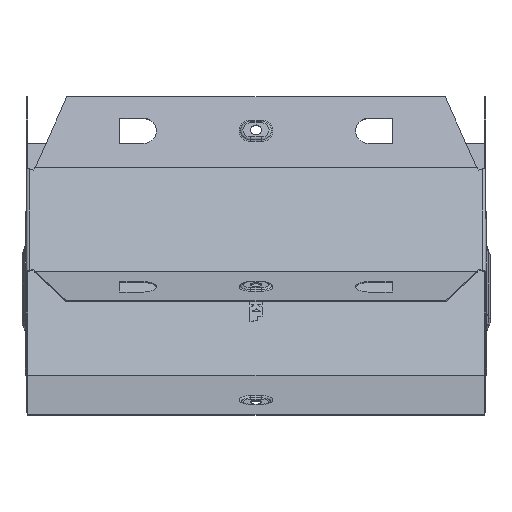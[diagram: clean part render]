
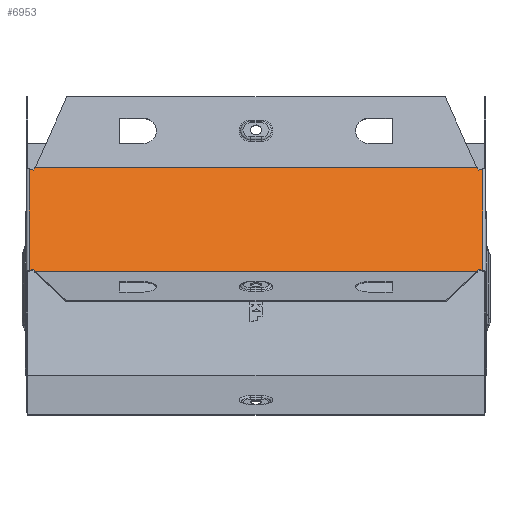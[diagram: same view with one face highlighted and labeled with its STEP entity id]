
A CAD part, front view. The second image highlights one B-rep face of the part: STEP entity #6953.
In plain terms, the highlighted planar face has unit normal (0, -0.707, 0.707).
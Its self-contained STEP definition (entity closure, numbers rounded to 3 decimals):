
#139 = EDGE_LOOP ( 'NONE', ( #4870, #882, #3861, #10073, #6157, #10503, #3283, #1329, #3732, #10153, #1946, #1222 ) ) ;
#310 = CARTESIAN_POINT ( 'NONE',  ( 150.299, 2.258, -69.859 ) ) ;
#424 = DIRECTION ( 'NONE',  ( -0.924, -0.271, -0.271 ) ) ;
#472 = VERTEX_POINT ( 'NONE', #9989 ) ;
#629 = LINE ( 'NONE', #12101, #10351 ) ;
#717 = DIRECTION ( 'NONE',  ( -1., 0., 0. ) ) ;
#882 = ORIENTED_EDGE ( 'NONE', *, *, #1439, .T. ) ;
#1222 = ORIENTED_EDGE ( 'NONE', *, *, #9135, .F. ) ;
#1329 = ORIENTED_EDGE ( 'NONE', *, *, #11295, .T. ) ;
#1374 = PLANE ( 'NONE',  #9932 ) ;
#1409 = DIRECTION ( 'NONE',  ( 0., 0.707, -0.707 ) ) ;
#1439 = EDGE_CURVE ( 'NONE', #472, #8602, #6325, .T. ) ;
#1531 = VERTEX_POINT ( 'NONE', #3880 ) ;
#1709 = VERTEX_POINT ( 'NONE', #10398 ) ;
#1808 = EDGE_CURVE ( 'NONE', #2020, #1531, #5576, .T. ) ;
#1882 = EDGE_CURVE ( 'NONE', #1531, #10614, #11457, .T. ) ;
#1946 = ORIENTED_EDGE ( 'NONE', *, *, #11430, .T. ) ;
#2020 = VERTEX_POINT ( 'NONE', #4205 ) ;
#2193 = CARTESIAN_POINT ( 'NONE',  ( -145.217, 3.747, -68.371 ) ) ;
#2197 = VECTOR ( 'NONE', #717, 1000. ) ;
#2346 = LINE ( 'NONE', #3043, #4551 ) ;
#2483 = DIRECTION ( 'NONE',  ( -0.383, -0.653, -0.653 ) ) ;
#2543 = LINE ( 'NONE', #8090, #7645 ) ;
#2608 = VECTOR ( 'NONE', #9357, 1000. ) ;
#2656 = VERTEX_POINT ( 'NONE', #9996 ) ;
#2832 = VECTOR ( 'NONE', #4254, 1000. ) ;
#3043 = CARTESIAN_POINT ( 'NONE',  ( 148.2, 70., -2.118 ) ) ;
#3193 = VECTOR ( 'NONE', #7704, 1000. ) ;
#3212 = CARTESIAN_POINT ( 'NONE',  ( 148.2, 70., -2.118 ) ) ;
#3283 = ORIENTED_EDGE ( 'NONE', *, *, #7813, .T. ) ;
#3660 = CARTESIAN_POINT ( 'NONE',  ( 123.5, -33.327, -105.445 ) ) ;
#3732 = ORIENTED_EDGE ( 'NONE', *, *, #1808, .T. ) ;
#3861 = ORIENTED_EDGE ( 'NONE', *, *, #9455, .F. ) ;
#3880 = CARTESIAN_POINT ( 'NONE',  ( -148.2, 2.873, -69.245 ) ) ;
#4050 = CARTESIAN_POINT ( 'NONE',  ( -148.2, 70., -2.118 ) ) ;
#4082 = VERTEX_POINT ( 'NONE', #6910 ) ;
#4083 = CARTESIAN_POINT ( 'NONE',  ( -150.299, 2.258, -69.859 ) ) ;
#4202 = CARTESIAN_POINT ( 'NONE',  ( 148.2, 69.245, -2.873 ) ) ;
#4205 = CARTESIAN_POINT ( 'NONE',  ( -148.2, 69.245, -2.873 ) ) ;
#4254 = DIRECTION ( 'NONE',  ( 0.924, -0.271, -0.271 ) ) ;
#4351 = LINE ( 'NONE', #9069, #6381 ) ;
#4551 = VECTOR ( 'NONE', #9655, 1000. ) ;
#4647 = LINE ( 'NONE', #2193, #3193 ) ;
#4711 = DIRECTION ( 'NONE',  ( -0.383, 0.653, 0.653 ) ) ;
#4870 = ORIENTED_EDGE ( 'NONE', *, *, #11125, .T. ) ;
#5300 = VECTOR ( 'NONE', #6804, 1000. ) ;
#5564 = VECTOR ( 'NONE', #9223, 1000. ) ;
#5576 = LINE ( 'NONE', #4050, #11321 ) ;
#6145 = EDGE_CURVE ( 'NONE', #11225, #10207, #4351, .T. ) ;
#6157 = ORIENTED_EDGE ( 'NONE', *, *, #7454, .T. ) ;
#6296 = CARTESIAN_POINT ( 'NONE',  ( 148.2, 69.859, -2.258 ) ) ;
#6325 = LINE ( 'NONE', #310, #2832 ) ;
#6381 = VECTOR ( 'NONE', #424, 1000. ) ;
#6445 = LINE ( 'NONE', #6296, #5564 ) ;
#6688 = LINE ( 'NONE', #3660, #7140 ) ;
#6804 = DIRECTION ( 'NONE',  ( 0.924, 0.271, 0.271 ) ) ;
#6910 = CARTESIAN_POINT ( 'NONE',  ( -145.217, 68.371, -3.747 ) ) ;
#6953 = ADVANCED_FACE ( 'NONE', ( #8413 ), #1374, .F. ) ;
#6997 = DIRECTION ( 'NONE',  ( 0., 0.707, 0.707 ) ) ;
#7140 = VECTOR ( 'NONE', #11505, 1000. ) ;
#7159 = DIRECTION ( 'NONE',  ( 0., -0.707, -0.707 ) ) ;
#7166 = CARTESIAN_POINT ( 'NONE',  ( -144.345, 2.258, -69.859 ) ) ;
#7189 = LINE ( 'NONE', #7307, #2197 ) ;
#7307 = CARTESIAN_POINT ( 'NONE',  ( 148.2, 2.258, -69.859 ) ) ;
#7454 = EDGE_CURVE ( 'NONE', #10207, #10564, #629, .T. ) ;
#7645 = VECTOR ( 'NONE', #2483, 1000. ) ;
#7704 = DIRECTION ( 'NONE',  ( 0.383, -0.653, -0.653 ) ) ;
#7813 = EDGE_CURVE ( 'NONE', #1709, #4082, #2543, .T. ) ;
#8090 = CARTESIAN_POINT ( 'NONE',  ( -145.217, 68.371, -3.747 ) ) ;
#8413 = FACE_OUTER_BOUND ( 'NONE', #139, .T. ) ;
#8602 = VERTEX_POINT ( 'NONE', #10675 ) ;
#8724 = CARTESIAN_POINT ( 'NONE',  ( 145.217, 68.371, -3.747 ) ) ;
#9060 = EDGE_CURVE ( 'NONE', #10564, #1709, #6445, .T. ) ;
#9069 = CARTESIAN_POINT ( 'NONE',  ( 150.299, 69.859, -2.258 ) ) ;
#9135 = EDGE_CURVE ( 'NONE', #2656, #10648, #7189, .T. ) ;
#9223 = DIRECTION ( 'NONE',  ( -1., 0., 0. ) ) ;
#9357 = DIRECTION ( 'NONE',  ( -0.924, 0.271, 0.271 ) ) ;
#9455 = EDGE_CURVE ( 'NONE', #11225, #8602, #2346, .T. ) ;
#9526 = CARTESIAN_POINT ( 'NONE',  ( -145.217, 3.747, -68.371 ) ) ;
#9655 = DIRECTION ( 'NONE',  ( 0., -0.707, -0.707 ) ) ;
#9932 = AXIS2_PLACEMENT_3D ( 'NONE', #3212, #1409, #6997 ) ;
#9989 = CARTESIAN_POINT ( 'NONE',  ( 145.217, 3.747, -68.371 ) ) ;
#9996 = CARTESIAN_POINT ( 'NONE',  ( 144.345, 2.258, -69.859 ) ) ;
#10073 = ORIENTED_EDGE ( 'NONE', *, *, #6145, .T. ) ;
#10153 = ORIENTED_EDGE ( 'NONE', *, *, #1882, .T. ) ;
#10207 = VERTEX_POINT ( 'NONE', #8724 ) ;
#10244 = LINE ( 'NONE', #11912, #2608 ) ;
#10262 = CARTESIAN_POINT ( 'NONE',  ( 144.345, 69.859, -2.258 ) ) ;
#10351 = VECTOR ( 'NONE', #4711, 1000. ) ;
#10398 = CARTESIAN_POINT ( 'NONE',  ( -144.345, 69.859, -2.258 ) ) ;
#10503 = ORIENTED_EDGE ( 'NONE', *, *, #9060, .T. ) ;
#10564 = VERTEX_POINT ( 'NONE', #10262 ) ;
#10614 = VERTEX_POINT ( 'NONE', #9526 ) ;
#10648 = VERTEX_POINT ( 'NONE', #7166 ) ;
#10675 = CARTESIAN_POINT ( 'NONE',  ( 148.2, 2.873, -69.245 ) ) ;
#11125 = EDGE_CURVE ( 'NONE', #2656, #472, #6688, .T. ) ;
#11225 = VERTEX_POINT ( 'NONE', #4202 ) ;
#11295 = EDGE_CURVE ( 'NONE', #4082, #2020, #10244, .T. ) ;
#11321 = VECTOR ( 'NONE', #7159, 1000. ) ;
#11430 = EDGE_CURVE ( 'NONE', #10614, #10648, #4647, .T. ) ;
#11457 = LINE ( 'NONE', #4083, #5300 ) ;
#11505 = DIRECTION ( 'NONE',  ( 0.383, 0.653, 0.653 ) ) ;
#11912 = CARTESIAN_POINT ( 'NONE',  ( -150.299, 69.859, -2.258 ) ) ;
#12101 = CARTESIAN_POINT ( 'NONE',  ( 123.5, 105.445, 33.327 ) ) ;
